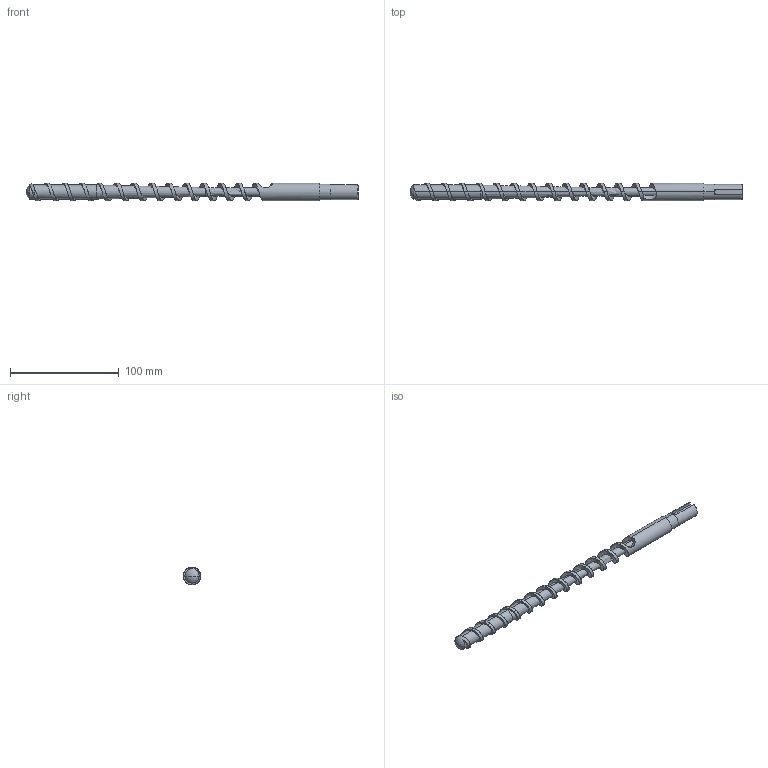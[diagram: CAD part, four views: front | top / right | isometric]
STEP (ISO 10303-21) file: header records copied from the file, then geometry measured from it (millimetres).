
FILE_DESCRIPTION (( 'STEP AP203' ), '1' );
FILE_NAME ('螺杆.STEP', '2021-03-30T16:59:35', ( '微软用户' ), ( '微软中国' ), 'SwSTEP 2.0', 'SolidWorks 2013', '' );
FILE_SCHEMA (( 'CONFIG_CONTROL_DESIGN' ));
Length unit declared in the file: millimetre
Products named in the file (1): 蹟裝
Bounding box: 305 x 16 x 16 mm (x, y, z)
Volume: 39275.9 mm3; surface area: 15638.8 mm2
Topology: 1 solids, 1 shells, 74 faces, 204 edges, 134 vertices
Faces by surface type: cylinder 44, cone 16, plane 6, bspline 5, sphere 3
Entity records: 8083 total; most frequent: CARTESIAN_POINT 6412, ORIENTED_EDGE 408, DIRECTION 256, EDGE_CURVE 204, VERTEX_POINT 134, AXIS2_PLACEMENT_3D 96, EDGE_LOOP 76, FACE_OUTER_BOUND 74
